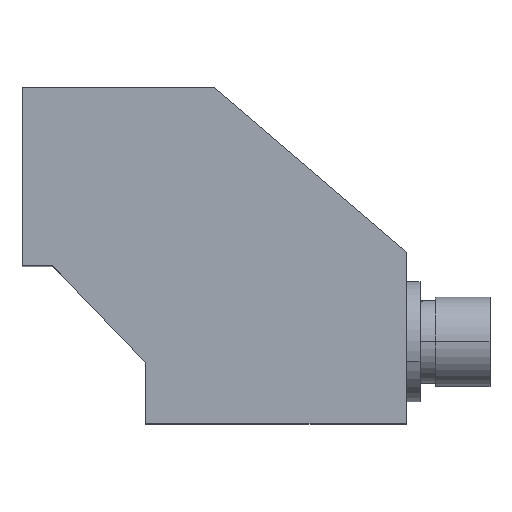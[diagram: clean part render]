
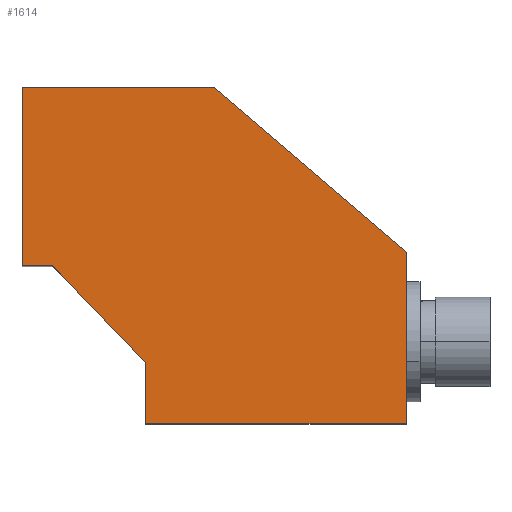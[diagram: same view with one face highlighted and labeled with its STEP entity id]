
A CAD part, top view. The second image highlights one B-rep face of the part: STEP entity #1614.
In plain terms, the highlighted planar face has unit normal (0, 0, 1).
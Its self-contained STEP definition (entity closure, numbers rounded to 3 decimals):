
#30 = EDGE_CURVE ( 'NONE', #832, #796, #5482, .T. ) ;
#50 = EDGE_CURVE ( 'NONE', #828, #832, #5498, .T. ) ;
#63 = EDGE_CURVE ( 'NONE', #816, #828, #5512, .T. ) ;
#89 = EDGE_CURVE ( 'NONE', #814, #816, #5534, .T. ) ;
#106 = EDGE_CURVE ( 'NONE', #794, #803, #5550, .T. ) ;
#170 = EDGE_CURVE ( 'NONE', #796, #794, #5593, .T. ) ;
#794 = VERTEX_POINT ( 'NONE', #3712 ) ;
#796 = VERTEX_POINT ( 'NONE', #3714 ) ;
#803 = VERTEX_POINT ( 'NONE', #3721 ) ;
#814 = VERTEX_POINT ( 'NONE', #3732 ) ;
#816 = VERTEX_POINT ( 'NONE', #3734 ) ;
#828 = VERTEX_POINT ( 'NONE', #3746 ) ;
#832 = VERTEX_POINT ( 'NONE', #3750 ) ;
#837 = VERTEX_POINT ( 'NONE', #3755 ) ;
#1019 = LINE ( 'NONE', #2441, #1022 ) ;
#1022 = VECTOR ( 'NONE', #2442, 1000. ) ;
#1025 = LINE ( 'NONE', #2445, #1027 ) ;
#1027 = VECTOR ( 'NONE', #2446, 1000. ) ;
#1614 = ADVANCED_FACE ( 'NONE', ( #4891 ), #1975, .T. ) ;
#1968 = CARTESIAN_POINT ( 'NONE',  ( -12.531, 33.061, 18.65 ) ) ;
#1975 = PLANE ( 'NONE',  #6978 ) ;
#1976 = DIRECTION ( 'NONE',  ( 0., 0., 1. ) ) ;
#1977 = DIRECTION ( 'NONE',  ( 1., 0., 0. ) ) ;
#2441 = CARTESIAN_POINT ( 'NONE',  ( 25.469, -15.939, 18.65 ) ) ;
#2442 = DIRECTION ( 'NONE',  ( 0., 1., 0. ) ) ;
#2445 = CARTESIAN_POINT ( 'NONE',  ( -12.531, -15.939, 18.65 ) ) ;
#2446 = DIRECTION ( 'NONE',  ( 1., 0., 0. ) ) ;
#3712 = CARTESIAN_POINT ( 'NONE',  ( -12.531, -6.939, 18.65 ) ) ;
#3714 = CARTESIAN_POINT ( 'NONE',  ( -26.031, 7.061, 18.65 ) ) ;
#3721 = CARTESIAN_POINT ( 'NONE',  ( -12.531, -15.939, 18.65 ) ) ;
#3732 = CARTESIAN_POINT ( 'NONE',  ( 25.469, 9.061, 18.65 ) ) ;
#3734 = CARTESIAN_POINT ( 'NONE',  ( -2.531, 33.061, 18.65 ) ) ;
#3746 = CARTESIAN_POINT ( 'NONE',  ( -30.531, 33.061, 18.65 ) ) ;
#3750 = CARTESIAN_POINT ( 'NONE',  ( -30.531, 7.061, 18.65 ) ) ;
#3755 = CARTESIAN_POINT ( 'NONE',  ( 25.469, -15.939, 18.65 ) ) ;
#4891 = FACE_OUTER_BOUND ( 'NONE', #6862, .T. ) ;
#5268 = EDGE_CURVE ( 'NONE', #837, #814, #1019, .T. ) ;
#5272 = EDGE_CURVE ( 'NONE', #803, #837, #1025, .T. ) ;
#5482 = LINE ( 'NONE', #7176, #5485 ) ;
#5485 = VECTOR ( 'NONE', #7178, 1000. ) ;
#5498 = LINE ( 'NONE', #7156, #5505 ) ;
#5505 = VECTOR ( 'NONE', #7157, 1000. ) ;
#5512 = LINE ( 'NONE', #7181, #5515 ) ;
#5515 = VECTOR ( 'NONE', #7183, 1000. ) ;
#5534 = LINE ( 'NONE', #7371, #5537 ) ;
#5537 = VECTOR ( 'NONE', #7364, 1000. ) ;
#5550 = LINE ( 'NONE', #7332, #5553 ) ;
#5553 = VECTOR ( 'NONE', #7320, 1000. ) ;
#5593 = LINE ( 'NONE', #7432, #5597 ) ;
#5597 = VECTOR ( 'NONE', #7431, 1000. ) ;
#6787 = ORIENTED_EDGE ( 'NONE', *, *, #63, .T. ) ;
#6788 = ORIENTED_EDGE ( 'NONE', *, *, #50, .T. ) ;
#6789 = ORIENTED_EDGE ( 'NONE', *, *, #30, .T. ) ;
#6790 = ORIENTED_EDGE ( 'NONE', *, *, #170, .T. ) ;
#6791 = ORIENTED_EDGE ( 'NONE', *, *, #106, .T. ) ;
#6792 = ORIENTED_EDGE ( 'NONE', *, *, #5272, .T. ) ;
#6793 = ORIENTED_EDGE ( 'NONE', *, *, #5268, .T. ) ;
#6794 = ORIENTED_EDGE ( 'NONE', *, *, #89, .T. ) ;
#6862 = EDGE_LOOP ( 'NONE', ( #6787, #6788, #6789, #6790, #6791, #6792, #6793, #6794 ) ) ;
#6978 = AXIS2_PLACEMENT_3D ( 'NONE', #1968, #1976, #1977 ) ;
#7156 = CARTESIAN_POINT ( 'NONE',  ( -30.531, 33.061, 18.65 ) ) ;
#7157 = DIRECTION ( 'NONE',  ( 0., -1., 0. ) ) ;
#7176 = CARTESIAN_POINT ( 'NONE',  ( -30.531, 7.061, 18.65 ) ) ;
#7178 = DIRECTION ( 'NONE',  ( 1., 0., 0. ) ) ;
#7181 = CARTESIAN_POINT ( 'NONE',  ( -2.531, 33.061, 18.65 ) ) ;
#7183 = DIRECTION ( 'NONE',  ( -1., 0., 0. ) ) ;
#7320 = DIRECTION ( 'NONE',  ( 0., -1., 0. ) ) ;
#7332 = CARTESIAN_POINT ( 'NONE',  ( -12.531, -6.939, 18.65 ) ) ;
#7364 = DIRECTION ( 'NONE',  ( -0.759, 0.651, 0. ) ) ;
#7371 = CARTESIAN_POINT ( 'NONE',  ( 25.469, 9.061, 18.65 ) ) ;
#7431 = DIRECTION ( 'NONE',  ( 0.694, -0.72, 0. ) ) ;
#7432 = CARTESIAN_POINT ( 'NONE',  ( -26.031, 7.061, 18.65 ) ) ;
